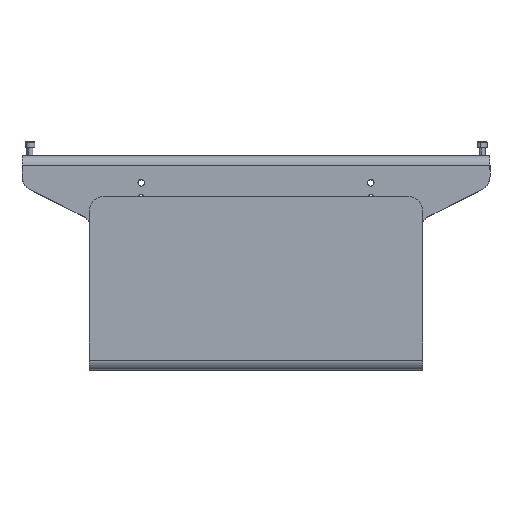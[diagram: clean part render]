
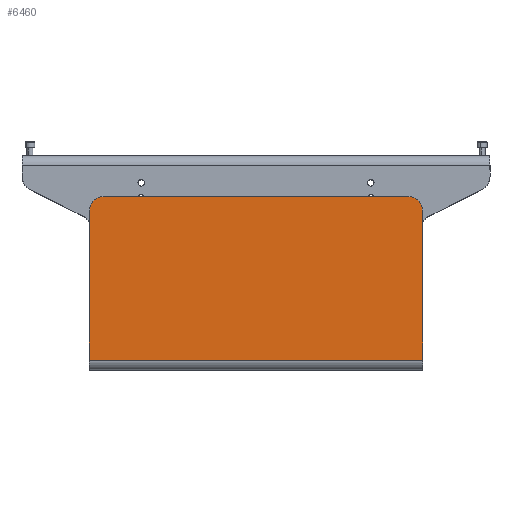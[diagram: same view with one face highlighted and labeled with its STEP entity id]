
A CAD part, top view. The second image highlights one B-rep face of the part: STEP entity #6460.
In plain terms, the highlighted planar face has unit normal (0, 0, 1).
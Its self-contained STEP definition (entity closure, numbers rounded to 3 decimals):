
#692 = CARTESIAN_POINT ( 'NONE',  ( -167., 84.5, 103. ) ) ;
#853 = CARTESIAN_POINT ( 'NONE',  ( 152., 84.5, 103. ) ) ;
#899 = CARTESIAN_POINT ( 'NONE',  ( 167., -84.5, 103. ) ) ;
#977 = ORIENTED_EDGE ( 'NONE', *, *, #8514, .T. ) ;
#1107 = EDGE_CURVE ( 'NONE', #6240, #6358, #6478, .T. ) ;
#1327 = ORIENTED_EDGE ( 'NONE', *, *, #1107, .F. ) ;
#1517 = DIRECTION ( 'NONE',  ( -1., 0., 0. ) ) ;
#1768 = EDGE_CURVE ( 'NONE', #11099, #3457, #7904, .T. ) ;
#3054 = CARTESIAN_POINT ( 'NONE',  ( 167., 69.5, 103. ) ) ;
#3246 = EDGE_LOOP ( 'NONE', ( #1327, #977, #12203, #10148, #9532, #10225 ) ) ;
#3457 = VERTEX_POINT ( 'NONE', #12243 ) ;
#3723 = CIRCLE ( 'NONE', #11184, 15. ) ;
#3770 = CARTESIAN_POINT ( 'NONE',  ( -167., 69.5, 103. ) ) ;
#3862 = VERTEX_POINT ( 'NONE', #3054 ) ;
#4058 = DIRECTION ( 'NONE',  ( 0., 0., 1. ) ) ;
#4447 = DIRECTION ( 'NONE',  ( 1., 0., 0. ) ) ;
#5562 = PLANE ( 'NONE',  #9893 ) ;
#6240 = VERTEX_POINT ( 'NONE', #12648 ) ;
#6246 = DIRECTION ( 'NONE',  ( 1., 0., 0. ) ) ;
#6287 = FACE_OUTER_BOUND ( 'NONE', #3246, .T. ) ;
#6358 = VERTEX_POINT ( 'NONE', #853 ) ;
#6433 = VECTOR ( 'NONE', #8807, 1000. ) ;
#6434 = CARTESIAN_POINT ( 'NONE',  ( -152., 69.5, 103. ) ) ;
#6460 = ADVANCED_FACE ( 'NONE', ( #6287 ), #5562, .F. ) ;
#6469 = CARTESIAN_POINT ( 'NONE',  ( -167., -79.5, 103. ) ) ;
#6478 = LINE ( 'NONE', #692, #12306 ) ;
#6612 = AXIS2_PLACEMENT_3D ( 'NONE', #10989, #4058, #9111 ) ;
#7310 = DIRECTION ( 'NONE',  ( 0., 0., -1. ) ) ;
#7904 = LINE ( 'NONE', #11867, #11250 ) ;
#8063 = EDGE_CURVE ( 'NONE', #3862, #6358, #9709, .T. ) ;
#8250 = VERTEX_POINT ( 'NONE', #3770 ) ;
#8514 = EDGE_CURVE ( 'NONE', #6240, #8250, #3723, .T. ) ;
#8690 = EDGE_CURVE ( 'NONE', #11099, #8250, #9916, .T. ) ;
#8729 = LINE ( 'NONE', #899, #12795 ) ;
#8807 = DIRECTION ( 'NONE',  ( 0., 1., 0. ) ) ;
#9111 = DIRECTION ( 'NONE',  ( -1., 0., 0. ) ) ;
#9249 = DIRECTION ( 'NONE',  ( -1., 0., 0. ) ) ;
#9318 = CARTESIAN_POINT ( 'NONE',  ( 0., 0., 103. ) ) ;
#9398 = DIRECTION ( 'NONE',  ( 0., 0., 1. ) ) ;
#9532 = ORIENTED_EDGE ( 'NONE', *, *, #12848, .F. ) ;
#9636 = DIRECTION ( 'NONE',  ( 0., -1., 0. ) ) ;
#9709 = CIRCLE ( 'NONE', #6612, 15. ) ;
#9893 = AXIS2_PLACEMENT_3D ( 'NONE', #9318, #7310, #9249 ) ;
#9916 = LINE ( 'NONE', #10753, #6433 ) ;
#10148 = ORIENTED_EDGE ( 'NONE', *, *, #1768, .T. ) ;
#10225 = ORIENTED_EDGE ( 'NONE', *, *, #8063, .T. ) ;
#10753 = CARTESIAN_POINT ( 'NONE',  ( -167., -84.5, 103. ) ) ;
#10989 = CARTESIAN_POINT ( 'NONE',  ( 152., 69.5, 103. ) ) ;
#11099 = VERTEX_POINT ( 'NONE', #6469 ) ;
#11184 = AXIS2_PLACEMENT_3D ( 'NONE', #6434, #9398, #1517 ) ;
#11250 = VECTOR ( 'NONE', #6246, 1000. ) ;
#11867 = CARTESIAN_POINT ( 'NONE',  ( -167., -79.5, 103. ) ) ;
#12203 = ORIENTED_EDGE ( 'NONE', *, *, #8690, .F. ) ;
#12243 = CARTESIAN_POINT ( 'NONE',  ( 167., -79.5, 103. ) ) ;
#12306 = VECTOR ( 'NONE', #4447, 1000. ) ;
#12648 = CARTESIAN_POINT ( 'NONE',  ( -152., 84.5, 103. ) ) ;
#12795 = VECTOR ( 'NONE', #9636, 1000. ) ;
#12848 = EDGE_CURVE ( 'NONE', #3862, #3457, #8729, .T. ) ;
